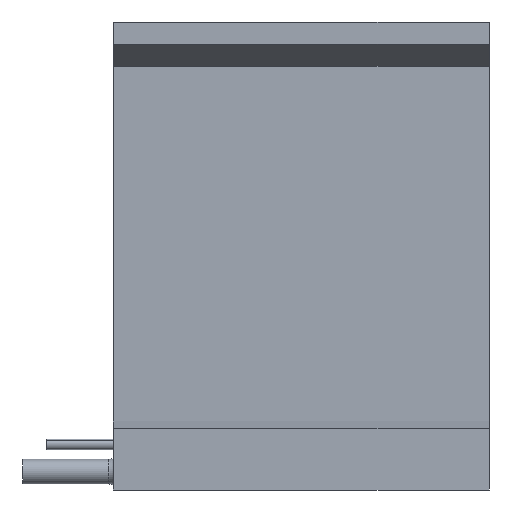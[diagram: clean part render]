
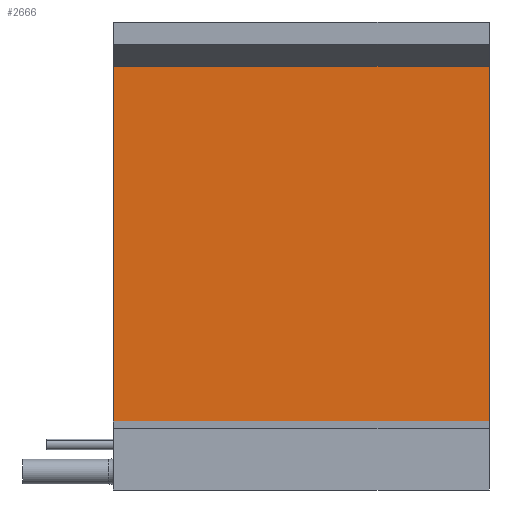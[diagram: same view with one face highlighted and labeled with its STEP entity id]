
A CAD part, left-side view. The second image highlights one B-rep face of the part: STEP entity #2666.
In plain terms, the highlighted planar face has unit normal (-1, 0, 0) as drawn and (1, 0, 0) by its records, which use the part's own axes.
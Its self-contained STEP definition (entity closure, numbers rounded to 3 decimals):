
#83 = DIRECTION ( 'NONE',  ( 0., 1., 0. ) ) ;
#134 = LINE ( 'NONE', #995, #280 ) ;
#230 = CARTESIAN_POINT ( 'NONE',  ( 21.35, 154.11, 145. ) ) ;
#280 = VECTOR ( 'NONE', #2302, 1000. ) ;
#288 = PLANE ( 'NONE',  #4485 ) ;
#486 = CARTESIAN_POINT ( 'NONE',  ( 21.35, 17.11, 0. ) ) ;
#532 = VECTOR ( 'NONE', #2331, 1000. ) ;
#995 = CARTESIAN_POINT ( 'NONE',  ( 21.35, 17.11, 145. ) ) ;
#1242 = CARTESIAN_POINT ( 'NONE',  ( 21.35, 17.11, 145. ) ) ;
#1404 = EDGE_CURVE ( 'NONE', #1493, #1826, #1771, .T. ) ;
#1493 = VERTEX_POINT ( 'NONE', #2011 ) ;
#1568 = VECTOR ( 'NONE', #83, 1000. ) ;
#1618 = ORIENTED_EDGE ( 'NONE', *, *, #1404, .T. ) ;
#1621 = CARTESIAN_POINT ( 'NONE',  ( 21.35, 17.11, 145. ) ) ;
#1771 = LINE ( 'NONE', #486, #1568 ) ;
#1826 = VERTEX_POINT ( 'NONE', #2539 ) ;
#2011 = CARTESIAN_POINT ( 'NONE',  ( 21.35, 17.11, 0. ) ) ;
#2178 = EDGE_LOOP ( 'NONE', ( #1618, #4032, #3707, #5492 ) ) ;
#2275 = LINE ( 'NONE', #230, #532 ) ;
#2302 = DIRECTION ( 'NONE',  ( 0., 1., 0. ) ) ;
#2331 = DIRECTION ( 'NONE',  ( 0., 0., -1. ) ) ;
#2457 = CARTESIAN_POINT ( 'NONE',  ( 21.35, 154.11, 145. ) ) ;
#2460 = EDGE_CURVE ( 'NONE', #3583, #1493, #4788, .T. ) ;
#2539 = CARTESIAN_POINT ( 'NONE',  ( 21.35, 154.11, 0. ) ) ;
#2591 = EDGE_CURVE ( 'NONE', #2673, #1826, #2275, .T. ) ;
#2602 = DIRECTION ( 'NONE',  ( 0., 0., -1. ) ) ;
#2666 = ADVANCED_FACE ( 'NONE', ( #3294 ), #288, .F. ) ;
#2673 = VERTEX_POINT ( 'NONE', #2457 ) ;
#3294 = FACE_OUTER_BOUND ( 'NONE', #2178, .T. ) ;
#3442 = DIRECTION ( 'NONE',  ( 0., 0., 1. ) ) ;
#3583 = VERTEX_POINT ( 'NONE', #1242 ) ;
#3707 = ORIENTED_EDGE ( 'NONE', *, *, #3806, .F. ) ;
#3806 = EDGE_CURVE ( 'NONE', #3583, #2673, #134, .T. ) ;
#3927 = CARTESIAN_POINT ( 'NONE',  ( 21.35, 17.11, 145. ) ) ;
#4032 = ORIENTED_EDGE ( 'NONE', *, *, #2591, .F. ) ;
#4382 = VECTOR ( 'NONE', #2602, 1000. ) ;
#4485 = AXIS2_PLACEMENT_3D ( 'NONE', #1621, #5184, #3442 ) ;
#4788 = LINE ( 'NONE', #3927, #4382 ) ;
#5184 = DIRECTION ( 'NONE',  ( -1., 0., 0. ) ) ;
#5492 = ORIENTED_EDGE ( 'NONE', *, *, #2460, .T. ) ;
